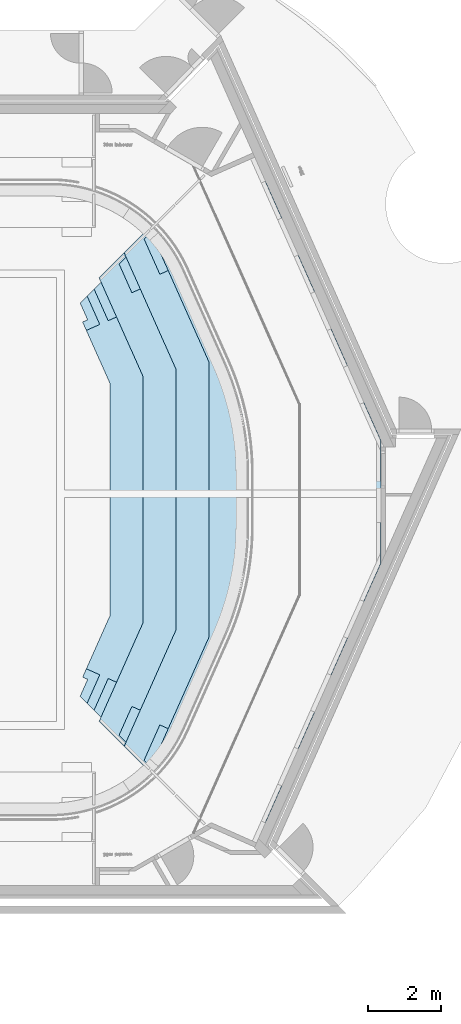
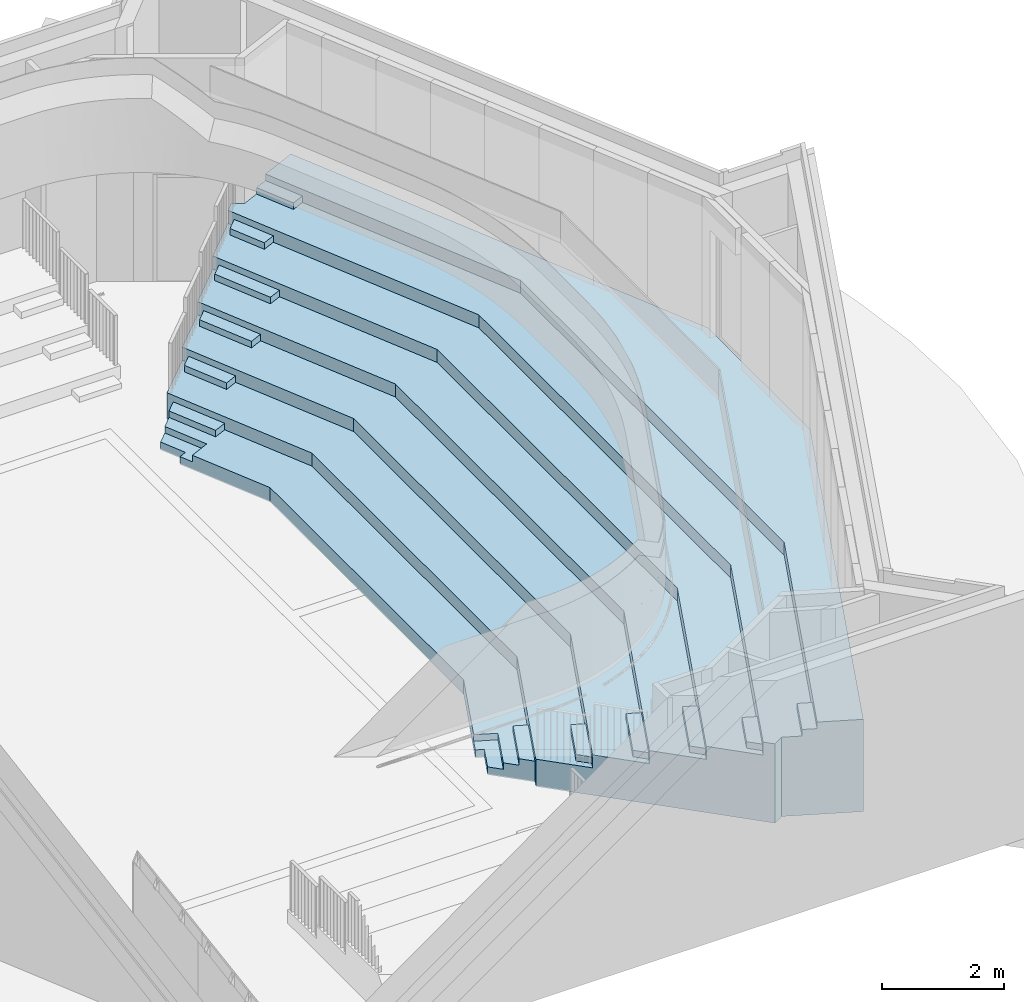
# One storey, part 12 of 19: 1 slab.
"""IFC2X3 building model written with IfcOpenShell, lengths in millimetres."""

from ifc_helpers import new_model, entity, si_unit, converted_unit, derived_unit, direction, frame, origin, place, context, subcontext, project, spatial, faceted_brep, material, type_object, element, save


model = new_model("IFC2X3")

# Units and contexts
model_context = context("Model", 3, precision=0.01, world=origin(), true_north=direction((6.123031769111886e-17, 1.0)))
body_context = subcontext(model_context, "Body", "Model", "MODEL_VIEW")
ifc_project = project(units=[si_unit("LENGTHUNIT", "METRE", prefix="MILLI"), si_unit("AREAUNIT", "SQUARE_METRE"), si_unit("VOLUMEUNIT", "CUBIC_METRE"), converted_unit("PLANEANGLEUNIT", "DEGREE", entity("IfcRatioMeasure", 0.017453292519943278), si_unit("PLANEANGLEUNIT", "RADIAN"), dimensions=[0, 0, 0, 0, 0, 0, 0]), si_unit("MASSUNIT", "GRAM", prefix="KILO"), derived_unit("MASSDENSITYUNIT", [(si_unit("MASSUNIT", "GRAM", prefix="KILO"), 1), (si_unit("LENGTHUNIT", "METRE"), -3)]), derived_unit("MOMENTOFINERTIAUNIT", [(si_unit("LENGTHUNIT", "METRE"), 4)]), si_unit("TIMEUNIT", "SECOND"), si_unit("FREQUENCYUNIT", "HERTZ"), si_unit("THERMODYNAMICTEMPERATUREUNIT", "DEGREE_CELSIUS"), derived_unit("THERMALTRANSMITTANCEUNIT", [(si_unit("MASSUNIT", "GRAM", prefix="KILO"), 1), (si_unit("THERMODYNAMICTEMPERATUREUNIT", "KELVIN"), -1), (si_unit("TIMEUNIT", "SECOND"), -3)]), derived_unit("VOLUMETRICFLOWRATEUNIT", [(si_unit("LENGTHUNIT", "METRE"), 3), (si_unit("TIMEUNIT", "SECOND"), -1)]), derived_unit("MASSFLOWRATEUNIT", [(si_unit("MASSUNIT", "GRAM", prefix="KILO"), 1), (si_unit("TIMEUNIT", "SECOND"), -1)]), derived_unit("ROTATIONALFREQUENCYUNIT", [(si_unit("TIMEUNIT", "SECOND"), -1)]), si_unit("ELECTRICCURRENTUNIT", "AMPERE"), si_unit("ELECTRICVOLTAGEUNIT", "VOLT"), si_unit("POWERUNIT", "WATT"), si_unit("FORCEUNIT", "NEWTON", prefix="KILO"), si_unit("ILLUMINANCEUNIT", "LUX"), si_unit("LUMINOUSFLUXUNIT", "LUMEN"), si_unit("LUMINOUSINTENSITYUNIT", "CANDELA"), derived_unit("USERDEFINED", [(si_unit("MASSUNIT", "GRAM", prefix="KILO"), -1), (si_unit("LENGTHUNIT", "METRE"), -2), (si_unit("TIMEUNIT", "SECOND"), 3), (si_unit("LUMINOUSFLUXUNIT", "LUMEN"), 1)]), derived_unit("SOUNDPOWERUNIT", [(si_unit("MASSUNIT", "GRAM", prefix="KILO"), 1), (si_unit("LENGTHUNIT", "METRE"), 2), (si_unit("TIMEUNIT", "SECOND"), -3)]), derived_unit("SOUNDPRESSUREUNIT", [(si_unit("MASSUNIT", "GRAM", prefix="KILO"), 1), (si_unit("LENGTHUNIT", "METRE"), -1), (si_unit("TIMEUNIT", "SECOND"), -2)]), derived_unit("LINEARVELOCITYUNIT", [(si_unit("LENGTHUNIT", "METRE"), 1), (si_unit("TIMEUNIT", "SECOND"), -1)]), si_unit("PRESSUREUNIT", "PASCAL"), derived_unit("USERDEFINED", [(si_unit("LENGTHUNIT", "METRE"), -2), (si_unit("MASSUNIT", "GRAM", prefix="KILO"), 1), (si_unit("TIMEUNIT", "SECOND"), -2)]), derived_unit("LINEARFORCEUNIT", [(si_unit("MASSUNIT", "GRAM", prefix="KILO"), 1), (si_unit("LENGTHUNIT", "METRE"), 1), (si_unit("TIMEUNIT", "SECOND"), -2), (si_unit("LENGTHUNIT", "METRE"), -1)]), derived_unit("PLANARFORCEUNIT", [(si_unit("MASSUNIT", "GRAM", prefix="KILO"), 1), (si_unit("LENGTHUNIT", "METRE"), 1), (si_unit("TIMEUNIT", "SECOND"), -2), (si_unit("LENGTHUNIT", "METRE"), -2)])], contexts=[model_context])

# Site, building, storey
site_placement = place(None, frame((-10000.0, -10000.0, 0.0)))
site = spatial("IfcSite", under=ifc_project, at=site_placement, Name="Default", CompositionType="ELEMENT")
building_placement = place(site_placement, origin())
building = spatial("IfcBuilding", under=site, at=building_placement, CompositionType="ELEMENT")
storey_placement = place(building_placement, frame((0.0, 0.0, 4200.0)))
storey = spatial("IfcBuildingStorey", under=building, at=storey_placement, Name="01 1e verdieping", CompositionType="ELEMENT", Elevation=4200.000000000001)

# Slab
ifc_material = material(Name="20_APX_ontwerpmateriaal grijs")
slab_type = type_object("IfcSlabType", Name="Hoofdtribune:Hoofdtribune", PredefinedType="FLOOR", material=ifc_material)
slab_placement = place(storey_placement, frame((36285.28125512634, 29289.91658532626, 0.0)))
element("IfcSlab", 1, at=slab_placement, inside=storey, type_object=slab_type, Name="Hoofdtribune:Hoofdtribune", ObjectType="Hoofdtribune:Hoofdtribune", PredefinedType="FLOOR", context=body_context, shape_type="Brep", body=[
    faceted_brep([(2882.786164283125, 16098.303181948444, 1195.0), (3111.1725286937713, 16199.98734271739, 1195.0), (2613.077915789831, 17318.726160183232, 1195.0), (2423.7244436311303, 17129.37268802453, 1195.0), (2882.786164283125, 16098.303181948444, 1065.0), (2423.7244436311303, 17129.37268802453, 1065.0), (2613.0779157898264, 17318.726160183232, 1065.0), (3111.1725286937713, 16199.98734271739, 1065.0)], [[[0, 1, 2, 3]], [[4, 5, 6, 7]], [[0, 3, 5, 4]], [[3, 2, 6, 5]], [[2, 1, 7, 6]], [[1, 0, 4, 7]]]),
    faceted_brep([(2170.4141460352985, 15485.582929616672, 935.0), (2398.8005104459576, 15587.267090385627, 935.0), (1931.4054160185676, 16637.053660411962, 935.0), (1742.0519438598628, 16447.700188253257, 935.0), (2170.4141460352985, 15485.582929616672, 805.0), (1742.0519438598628, 16447.700188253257, 805.0), (1931.4054160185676, 16637.053660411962, 805.0), (2398.8005104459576, 15587.267090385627, 805.0)], [[[0, 1, 2, 3]], [[4, 5, 6, 7]], [[0, 3, 5, 4]], [[3, 2, 6, 5]], [[2, 1, 7, 6]], [[1, 0, 4, 7]]]),
    faceted_brep([(1409.2337306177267, 14982.488132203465, 675.0), (1637.620095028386, 15084.172292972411, 675.0), (1249.7329162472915, 15955.38116064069, 675.0), (1060.3794440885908, 15766.027688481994, 675.0), (1409.2337306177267, 14982.488132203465, 545.0), (1060.3794440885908, 15766.027688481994, 545.0), (1249.7329162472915, 15955.38116064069, 545.0), (1637.620095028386, 15084.172292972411, 545.0)], [[[0, 1, 2, 3]], [[4, 5, 6, 7]], [[0, 3, 5, 4]], [[3, 2, 6, 5]], [[2, 1, 7, 6]], [[1, 0, 4, 7]]]),
    faceted_brep([(2882.786164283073, 2598.8636467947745, 1195.0), (2423.724443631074, 1567.794140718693, 1195.0), (2613.0779157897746, 1378.4406685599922, 1195.0), (3111.172528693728, 2497.1794860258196, 1195.0), (2882.786164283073, 2598.8636467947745, 1065.0), (3111.172528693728, 2497.1794860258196, 1065.0), (2613.0779157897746, 1378.4406685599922, 1065.0), (2423.724443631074, 1567.794140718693, 1065.0)], [[[0, 1, 2, 3]], [[4, 5, 6, 7]], [[1, 0, 4, 7]], [[2, 1, 7, 6]], [[3, 2, 6, 5]], [[0, 3, 5, 4]]]),
    faceted_brep([(2170.4141460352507, 3211.583899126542, 935.0), (1742.051943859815, 2249.466640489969, 935.0), (1931.4054160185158, 2060.11316833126, 935.0), (2398.8005104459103, 3109.899738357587, 935.0), (2170.4141460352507, 3211.583899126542, 805.0), (2398.8005104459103, 3109.899738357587, 805.0), (1931.4054160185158, 2060.11316833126, 805.0), (1742.051943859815, 2249.466640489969, 805.0)], [[[0, 1, 2, 3]], [[4, 5, 6, 7]], [[1, 0, 4, 7]], [[2, 1, 7, 6]], [[3, 2, 6, 5]], [[0, 3, 5, 4]]]),
    faceted_brep([(1409.2337306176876, 3714.678696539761, 675.0), (1060.3794440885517, 2931.139140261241, 675.0), (1249.732916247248, 2741.785668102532, 675.0), (1637.6200950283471, 3612.994535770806, 675.0), (1409.2337306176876, 3714.678696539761, 545.0), (1637.6200950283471, 3612.994535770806, 545.0), (1249.732916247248, 2741.785668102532, 545.0), (1060.3794440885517, 2931.139140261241, 545.0)], [[[0, 1, 2, 3]], [[4, 5, 6, 7]], [[1, 0, 4, 7]], [[2, 1, 7, 6]], [[3, 2, 6, 5]], [[0, 3, 5, 4]]]),
    faceted_brep([(991.4722162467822, 14322.710187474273, 285.0), (169.2813046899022, 13956.64720798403, 285.0), (809.718744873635, 12518.201165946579, 285.0), (809.7187448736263, 6178.965662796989, 285.0), (169.28130528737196, 4740.519622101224, 285.0), (991.4722171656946, 4374.456643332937, 285.0), (1709.718744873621, 5987.664757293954, 285.0), (1709.7187448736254, 12709.502071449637, 285.0), (991.4722171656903, 4374.456643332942, 0.0), (169.28130528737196, 4740.519622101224, 0.0), (809.7187448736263, 6178.965662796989, 0.0), (809.718744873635, 12518.201165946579, 0.0), (169.2813046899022, 13956.64720798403, 0.0), (991.4722162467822, 14322.710187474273, 0.0), (515.7795462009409, 15391.133417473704, 0.0), (3383.239539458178, 18258.593410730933, 0.0), (3573.033792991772, 18149.015647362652, 0.0), (4756.436079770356, 18675.734175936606, 0.0), (8189.718744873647, 10964.45505494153, 0.0), (8189.718744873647, 7603.124121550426, 0.0), (4804.5897879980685, 0.0, 0.0), (3573.033792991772, 548.1511813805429, 0.0), (3383.239539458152, 438.57341801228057, 0.0), (515.7795462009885, 3306.033411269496, 0.0), (1709.718744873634, 12709.502071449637, 545.0), (1709.718744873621, 5987.664757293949, 545.0), (515.7795462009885, 3306.0334112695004, 545.0), (1197.4520459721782, 2624.360911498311, 545.0), (2609.7187448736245, 5796.363851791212, 545.0), (2609.718744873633, 12900.802976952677, 545.0), (1197.4520459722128, 16072.805917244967, 545.0), (515.7795462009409, 15391.133417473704, 545.0), (3383.239539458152, 438.5734180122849, 1585.0), (3242.469545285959, 579.3434121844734, 1585.0), (3242.469545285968, 579.3434121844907, 1325.0), (2560.7970455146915, 1261.0159119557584, 1325.0), (2560.7970455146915, 1261.0159119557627, 1065.0), (1879.1245457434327, 1942.6884117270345, 1065.0), (1879.1245457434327, 1942.6884117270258, 805.0), (1197.4520459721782, 2624.360911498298, 805.0), (1197.4520459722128, 16072.805917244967, 805.0), (1879.1245457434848, 16754.47841701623, 805.0), (1879.1245457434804, 16754.47841701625, 1065.0), (2560.7970455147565, 17436.1509167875, 1065.0), (2560.7970455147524, 17436.150916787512, 1325.0), (3242.4695452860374, 18117.823416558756, 1325.0), (3242.4695452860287, 18117.823416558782, 1585.0), (3383.2395394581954, 18258.593410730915, 1585.0), (2609.718744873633, 12900.802976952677, 805.0), (2609.7187448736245, 5796.363851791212, 805.0), (3509.718744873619, 5605.062946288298, 805.0), (3509.7187448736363, 13092.103882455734, 805.0), (3509.7187448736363, 13092.10388245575, 1065.0), (3509.718744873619, 5605.062946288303, 1065.0), (4409.718744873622, 5413.762040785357, 1065.0), (4409.7187448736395, 13283.40478795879, 1065.0), (4409.7187448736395, 13283.40478795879, 1325.0), (4409.718744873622, 5413.762040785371, 1325.0), (5309.7187448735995, 5222.461135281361, 1325.0), (5309.718744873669, 13474.705693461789, 1325.0), (5309.718744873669, 13474.705693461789, 1585.0), (5309.7187448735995, 5222.461135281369, 1585.0), (3573.033792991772, 548.1511813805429, 1585.0), (4107.784972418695, 310.1396805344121, 1585.0), (6209.718744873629, 5031.160229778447, 1585.0), (6209.718744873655, 13666.006598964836, 1585.0), (4107.784972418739, 18387.02714820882, 1585.0), (3573.033792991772, 18149.015647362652, 1585.0), (4804.58978799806, 0.0, 1845.0), (4107.784972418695, 310.1396805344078, 1845.0), (4107.784972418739, 18387.02714820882, 1845.0), (4756.436079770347, 18675.734175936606, 1845.0), (6209.718744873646, 13666.006598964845, 1845.0), (6209.718744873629, 5031.160229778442, 1845.0), (8189.718744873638, 7603.124121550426, 1845.0), (8189.718744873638, 10964.455054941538, 1845.0)], [[[0, 1, 2, 3, 4, 5, 6, 7]], [[8, 9, 10, 11, 12, 13, 14, 15, 16, 17, 18, 19, 20, 21, 22, 23]], [[2, 1, 12, 11]], [[3, 2, 11, 10]], [[4, 3, 10, 9]], [[5, 4, 9, 8]], [[24, 25, 26, 27, 28, 29, 30, 31]], [[25, 24, 7, 6]], [[26, 25, 6, 5, 8, 23]], [[27, 26, 23, 22, 32, 33, 34, 35, 36, 37, 38, 39]], [[31, 30, 40, 41, 42, 43, 44, 45, 46, 47, 15, 14]], [[24, 31, 14, 13, 0, 7]], [[41, 40, 48, 49, 39, 38, 50, 51]], [[48, 40, 30, 29]], [[49, 48, 29, 28]], [[39, 49, 28, 27]], [[42, 52, 53, 37, 36, 54, 55, 43]], [[52, 42, 41, 51]], [[53, 52, 51, 50]], [[37, 53, 50, 38]], [[44, 56, 57, 35, 34, 58, 59, 45]], [[56, 44, 43, 55]], [[57, 56, 55, 54]], [[35, 57, 54, 36]], [[46, 60, 61, 33, 32, 62, 63, 64, 65, 66, 67, 47]], [[60, 46, 45, 59]], [[61, 60, 59, 58]], [[33, 61, 58, 34]], [[62, 32, 22, 21]], [[63, 62, 21, 20, 68, 69]], [[67, 66, 70, 71, 17, 16]], [[47, 67, 16, 15]], [[71, 70, 72, 73, 69, 68, 74, 75]], [[72, 70, 66, 65]], [[73, 72, 65, 64]], [[69, 73, 64, 63]], [[74, 68, 20, 19]], [[75, 74, 19, 18]], [[71, 75, 18, 17]], [[1, 0, 13, 12]]]),
    faceted_brep([(3879.386695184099, 411.797084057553, 1715.0), (4107.784972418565, 310.1396799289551, 1715.0), (4412.8374568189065, 995.2987778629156, 1715.0), (4184.4391795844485, 1096.9561819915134, 1715.0), (3879.386695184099, 411.797084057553, 1585.0), (4184.4391795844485, 1096.9561819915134, 1585.0), (4412.8374568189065, 995.2987778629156, 1585.0), (4107.784972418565, 310.1396799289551, 1585.0)], [[[0, 1, 2, 3]], [[4, 5, 6, 7]], [[0, 3, 5, 4]], [[1, 0, 4, 7]], [[2, 1, 7, 6]], [[3, 2, 6, 5]]]),
    faceted_brep([(3388.5849907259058, 1522.172409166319, 1455.0), (3105.3969434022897, 886.1216409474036, 1455.0), (3294.7504155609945, 696.7681687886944, 1455.0), (3616.971355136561, 1420.4882483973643, 1455.0), (3388.5849907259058, 1522.172409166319, 1325.0), (3616.971355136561, 1420.4882483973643, 1325.0), (3294.7504155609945, 696.7681687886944, 1325.0), (3105.3969434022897, 886.1216409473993, 1325.0)], [[[0, 1, 2, 3]], [[4, 5, 6, 7]], [[1, 0, 4, 7]], [[2, 1, 7, 6]], [[3, 2, 6, 5]], [[0, 3, 5, 4]]]),
    faceted_brep([(169.281305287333, 13956.647207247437, 155.0), (534.6994883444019, 14119.341864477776, 155.0), (189.35347215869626, 14895.001716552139, 155.0), (0.0, 14705.648244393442, 155.0), (204.62896316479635, 14246.04406811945, 155.0), (67.59714451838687, 14185.033571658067, 155.0), (169.281305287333, 13956.647207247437, 0.0), (67.59714451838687, 14185.033571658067, 0.0), (204.62896316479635, 14246.04406811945, 0.0), (0.0, 14705.648244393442, 0.0), (189.35347215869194, 14895.001716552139, 0.0), (534.6994883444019, 14119.341864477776, 0.0)], [[[0, 1, 2, 3, 4, 5]], [[6, 7, 8, 9, 10, 11]], [[4, 3, 9, 8]], [[3, 2, 10, 9]], [[2, 1, 11, 10]], [[1, 0, 6, 11]], [[0, 5, 7, 6]], [[5, 4, 8, 7]]]),
    faceted_brep([(534.6994883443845, 14119.341864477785, 285.0), (763.0858527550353, 14221.02602524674, 285.0), (378.7069443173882, 15084.355188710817, 285.0), (189.35347215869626, 14895.00171655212, 285.0), (534.6994883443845, 14119.341864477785, 0.0), (189.35347215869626, 14895.00171655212, 0.0), (378.7069443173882, 15084.355188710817, 0.0), (763.0858527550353, 14221.02602524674, 0.0)], [[[0, 1, 2, 3]], [[4, 5, 6, 7]], [[0, 3, 5, 4]], [[3, 2, 6, 5]], [[2, 1, 7, 6]], [[1, 0, 4, 7]]]),
    faceted_brep([(3879.3866951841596, 18285.369744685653, 1715.0), (4184.4391795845, 17600.210646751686, 1715.0), (4412.837456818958, 17701.868050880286, 1715.0), (4107.784972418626, 18387.02714881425, 1715.0), (3879.3866951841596, 18285.369744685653, 1585.0), (4107.784972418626, 18387.02714881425, 1585.0), (4412.837456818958, 17701.868050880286, 1585.0), (4184.4391795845, 17600.210646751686, 1585.0)], [[[0, 1, 2, 3]], [[4, 5, 6, 7]], [[1, 0, 4, 7]], [[0, 3, 5, 4]], [[3, 2, 6, 5]], [[2, 1, 7, 6]]]),
    faceted_brep([(763.0858527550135, 14221.026025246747, 415.0), (991.472217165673, 14322.710186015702, 415.0), (568.0604164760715, 15273.708660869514, 415.0), (378.70694431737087, 15084.355188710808, 415.0), (763.0858527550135, 14221.026025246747, 0.0), (378.70694431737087, 15084.355188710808, 0.0), (568.0604164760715, 15273.708660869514, 0.0), (991.472217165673, 14322.710186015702, 0.0)], [[[0, 1, 2, 3]], [[4, 5, 6, 7]], [[0, 3, 5, 4]], [[3, 2, 6, 5]], [[2, 1, 7, 6]], [[1, 0, 4, 7]]]),
    faceted_brep([(3388.584990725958, 17174.9944195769, 1455.0), (3616.971355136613, 17276.67858034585, 1455.0), (3294.7504155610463, 18000.398659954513, 1455.0), (3105.39694340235, 17811.04518779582, 1455.0), (3388.584990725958, 17174.9944195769, 1325.0), (3105.39694340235, 17811.04518779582, 1325.0), (3294.7504155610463, 18000.398659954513, 1325.0), (3616.971355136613, 17276.67858034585, 1325.0)], [[[0, 1, 2, 3]], [[4, 5, 6, 7]], [[0, 3, 5, 4]], [[3, 2, 6, 5]], [[2, 1, 7, 6]], [[1, 0, 4, 7]]]),
    faceted_brep([(169.28130528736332, 4740.519622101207, 155.0), (67.5971445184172, 4512.133257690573, 155.0), (204.62896316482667, 4451.122761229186, 155.0), (0.0, 3991.518584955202, 155.0), (189.35347215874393, 3802.1651127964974, 155.0), (534.6994883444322, 4577.824964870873, 155.0), (169.28130528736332, 4740.519622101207, 0.0), (534.6994883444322, 4577.824964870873, 0.0), (189.35347215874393, 3802.1651127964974, 0.0), (0.0, 3991.518584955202, 0.0), (204.62896316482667, 4451.122761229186, 0.0), (67.5971445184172, 4512.133257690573, 0.0)], [[[0, 1, 2, 3, 4, 5]], [[6, 7, 8, 9, 10, 11]], [[3, 2, 10, 9]], [[4, 3, 9, 8]], [[5, 4, 8, 7]], [[0, 5, 7, 6]], [[1, 0, 6, 11]], [[2, 1, 11, 10]]]),
    faceted_brep([(534.6994883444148, 4577.824964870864, 285.0), (189.3534721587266, 3802.1651127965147, 285.0), (378.7069443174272, 3612.811640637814, 285.0), (763.0858527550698, 4476.140804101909, 285.0), (534.6994883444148, 4577.824964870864, 0.0), (763.0858527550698, 4476.140804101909, 0.0), (378.7069443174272, 3612.811640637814, 0.0), (189.3534721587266, 3802.1651127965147, 0.0)], [[[0, 1, 2, 3]], [[4, 5, 6, 7]], [[1, 0, 4, 7]], [[2, 1, 7, 6]], [[3, 2, 6, 5]], [[0, 3, 5, 4]]]),
    faceted_brep([(763.0858527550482, 4476.140804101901, 415.0), (378.70694431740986, 3612.8116406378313, 415.0), (568.0604164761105, 3423.458168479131, 415.0), (991.4722171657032, 4374.456643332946, 415.0), (763.0858527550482, 4476.140804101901, 0.0), (991.4722171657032, 4374.456643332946, 0.0), (568.0604164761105, 3423.458168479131, 0.0), (378.70694431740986, 3612.8116406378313, 0.0)], [[[0, 1, 2, 3]], [[4, 5, 6, 7]], [[1, 0, 4, 7]], [[2, 1, 7, 6]], [[3, 2, 6, 5]], [[0, 3, 5, 4]]]),
])

save(model, "model.ifc")
